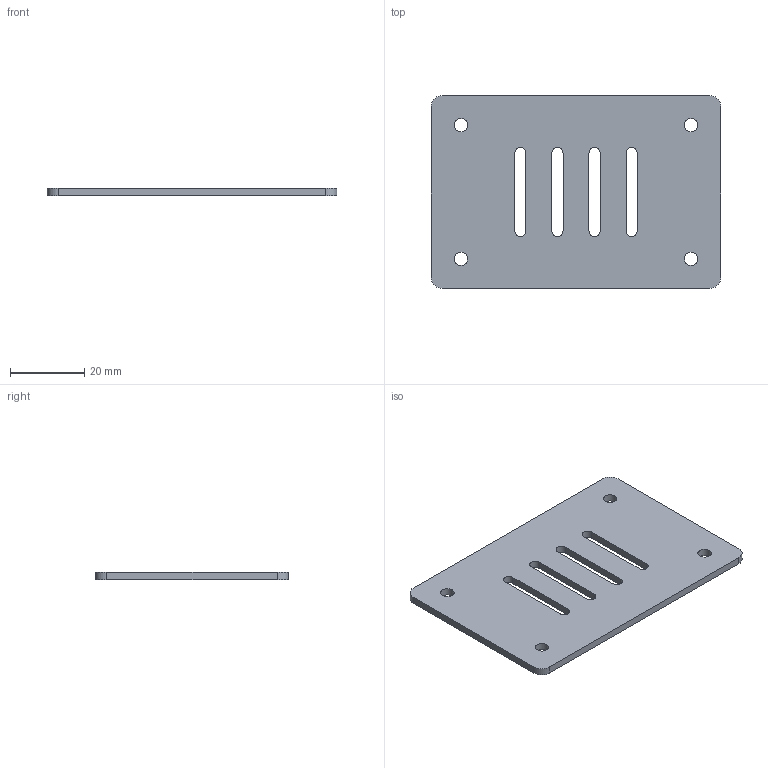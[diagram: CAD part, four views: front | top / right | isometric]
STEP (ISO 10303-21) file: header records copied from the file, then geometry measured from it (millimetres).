
FILE_DESCRIPTION(('Open CASCADE Model'),'2;1');
FILE_NAME('Open CASCADE Shape Model','2026-09-20T04:25:33',('Author'),( 'Open CASCADE'),'Open CASCADE STEP processor 7.9','Open CASCADE 7.9' ,'Unknown');
FILE_SCHEMA(('AUTOMOTIVE_DESIGN { 1 0 10303 214 1 1 1 1 }'));
Length unit declared in the file: millimetre
Products named in the file (1): Open CASCADE STEP translator 7.9 13
Bounding box: 78 x 52 x 2 mm (x, y, z)
Volume: 7454.6 mm3; surface area: 8466.1 mm2
Topology: 1 solids, 1 shells, 30 faces, 84 edges, 56 vertices
Faces by surface type: cylinder 16, plane 14
Full cylindrical faces by diameter (mm): 3.6 x4
Entity records: 2158 total; most frequent: CARTESIAN_POINT 475, DIRECTION 310, LINE 172, VECTOR 172, ORIENTED_EDGE 168, PCURVE 168, DEFINITIONAL_REPRESENTATION 168, EDGE_CURVE 84
